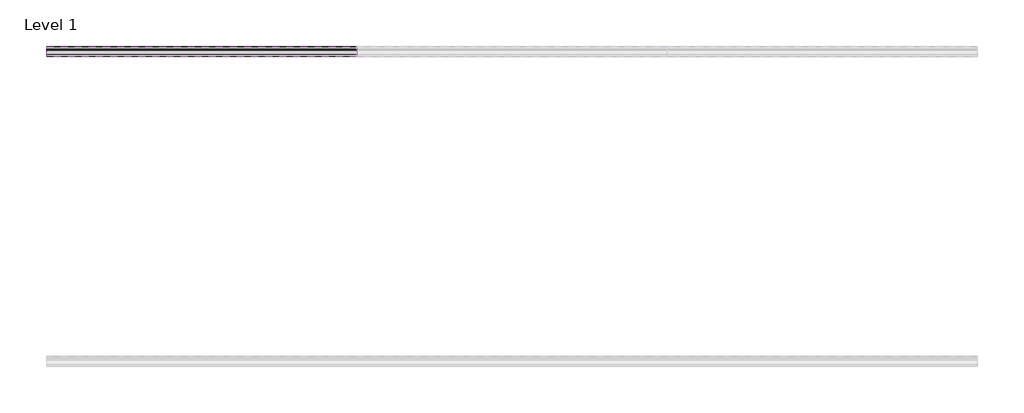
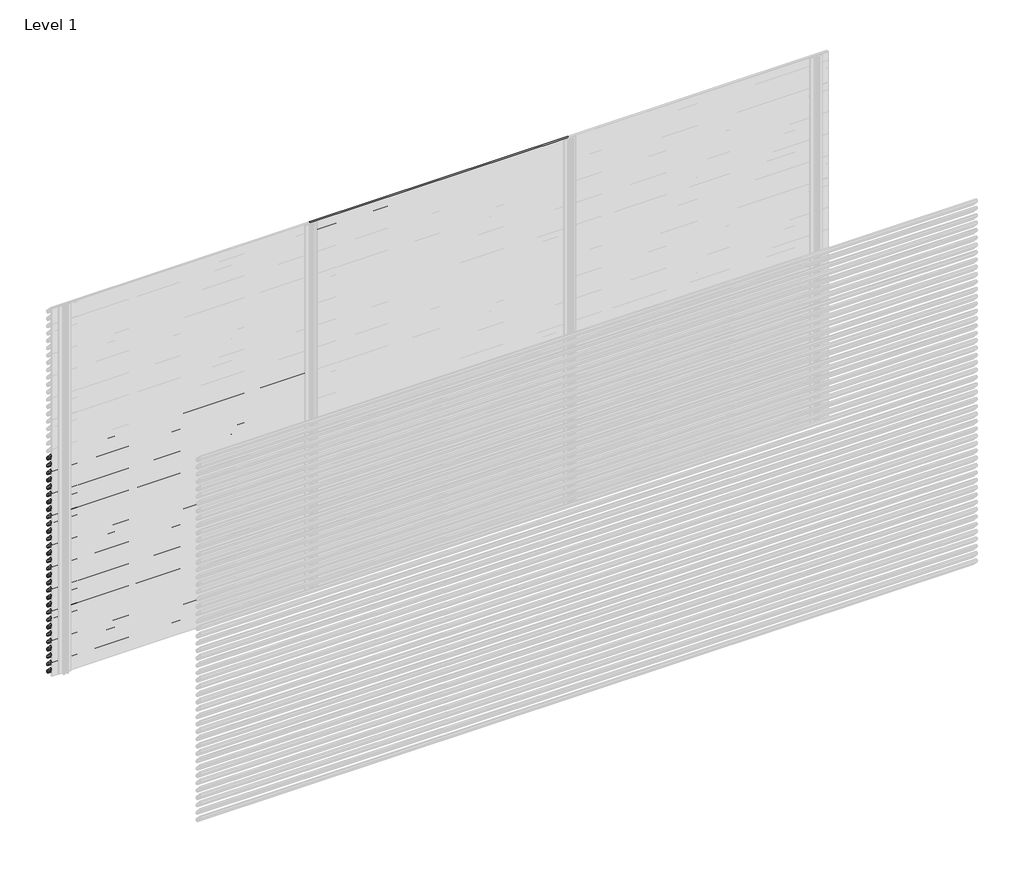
# One storey, part 34 of 153: 33 proxies.
"""IFC4 building model written with IfcOpenShell, lengths in millimetres."""

from ifc_helpers import new_model, si_unit, point, frame, frame_2d, origin, place, context, project, spatial, polyline, circle_curve, trimmed, segment, composite_curve, outline, extrude, element, save

model = new_model("IFC4")

# Units and contexts
model_context = context("Model", 3, world=origin())
ifc_project = project(units=[si_unit("LENGTHUNIT", "METRE", prefix="MILLI")], contexts=[model_context])

# Site, building, storey
site = spatial("IfcSite", under=ifc_project)
building = spatial("IfcBuilding", under=site)
storey = spatial("IfcBuildingStorey", under=building, Name="Level 1", Elevation=0.0)

# Proxies
placement = place(None, origin())
element("IfcBuildingElementProxy", 1, Name="Wall Sweeps", at=placement, inside=storey, context=model_context, shape_type="SweptSolid", body=[
    extrude(outline(composite_curve([segment(polyline([(6989.0270068, 1800.0), (7003.8471842, 1798.7034025), (7053.0270068, 1745.0102749), (7053.0270068, 1733.6108187)]), True, "CONTINUOUS"), segment(trimmed(circle_curve(frame_2d((7049.7613584, 1733.897153)), 3.2781774), [point((7053.0270068, 1733.6108187))], [point((7050.4369373, 1730.6893438))], False, "CARTESIAN"), True, "CONTINUOUS"), segment(polyline([(7050.4369373, 1730.6893438), (7038.1625655, 1731.6282758), (6989.0270068, 1785.2730773), (6989.0270068, 1800.0)]), True, "CONTINUOUS")], self_intersect=False), holes=[composite_curve([segment(polyline([(7003.1351705, 1797.2599659), (6990.5270068, 1798.3630372), (6990.5270068, 1785.856213), (7038.8681968, 1733.0786805), (7050.3042474, 1732.2038762)]), True, "CONTINUOUS"), segment(trimmed(circle_curve(frame_2d((7049.7613584, 1733.897153)), 1.7781774), [point((7050.3042474, 1732.2038762))], [point((7051.5270068, 1733.6864389))], True, "CARTESIAN"), True, "CONTINUOUS"), segment(polyline([(7051.5270068, 1733.6864389), (7051.5270068, 1744.4271392), (7003.1351705, 1797.2599659)]), True, "CONTINUOUS")], self_intersect=False)]), frame((44966.6208097, 0.0, 0.0), z_axis=(1.0, 0.0, 0.0), x_axis=(0.0, 1.0, 0.0)), (0.0, 0.0, 1.0), 2000.0000001),
])
element("IfcBuildingElementProxy", 2, Name="Wall Sweeps", at=placement, inside=storey, context=model_context, shape_type="SweptSolid", body=[
    extrude(outline(composite_curve([segment(polyline([(6989.0270068, 1740.0), (7003.8471842, 1738.7034025), (7053.0270068, 1685.0102749), (7053.0270068, 1673.6108187)]), True, "CONTINUOUS"), segment(trimmed(circle_curve(frame_2d((7049.7613584, 1673.897153)), 3.2781774), [point((7053.0270068, 1673.6108187))], [point((7050.4369373, 1670.6893438))], False, "CARTESIAN"), True, "CONTINUOUS"), segment(polyline([(7050.4369373, 1670.6893438), (7038.1625655, 1671.6282758), (6989.0270068, 1725.2730773), (6989.0270068, 1740.0)]), True, "CONTINUOUS")], self_intersect=False), holes=[composite_curve([segment(polyline([(7003.1351705, 1737.2599659), (6990.5270068, 1738.3630372), (6990.5270068, 1725.856213), (7038.8681968, 1673.0786805), (7050.3042474, 1672.2038762)]), True, "CONTINUOUS"), segment(trimmed(circle_curve(frame_2d((7049.7613584, 1673.897153)), 1.7781774), [point((7050.3042474, 1672.2038762))], [point((7051.5270068, 1673.6864389))], True, "CARTESIAN"), True, "CONTINUOUS"), segment(polyline([(7051.5270068, 1673.6864389), (7051.5270068, 1684.4271392), (7003.1351705, 1737.2599659)]), True, "CONTINUOUS")], self_intersect=False)]), frame((44966.6208097, 0.0, 0.0), z_axis=(1.0, 0.0, 0.0), x_axis=(0.0, 1.0, 0.0)), (0.0, 0.0, 1.0), 2000.0000001),
])
element("IfcBuildingElementProxy", 3, Name="Wall Sweeps", at=placement, inside=storey, context=model_context, shape_type="SweptSolid", body=[
    extrude(outline(composite_curve([segment(polyline([(6989.0270068, 1680.0), (7003.8471842, 1678.7034025), (7053.0270068, 1625.0102749), (7053.0270068, 1613.6108187)]), True, "CONTINUOUS"), segment(trimmed(circle_curve(frame_2d((7049.7613584, 1613.897153)), 3.2781774), [point((7053.0270068, 1613.6108187))], [point((7050.4369373, 1610.6893438))], False, "CARTESIAN"), True, "CONTINUOUS"), segment(polyline([(7050.4369373, 1610.6893438), (7038.1625655, 1611.6282758), (6989.0270068, 1665.2730773), (6989.0270068, 1680.0)]), True, "CONTINUOUS")], self_intersect=False), holes=[composite_curve([segment(polyline([(7003.1351705, 1677.2599659), (6990.5270068, 1678.3630372), (6990.5270068, 1665.856213), (7038.8681968, 1613.0786805), (7050.3042474, 1612.2038762)]), True, "CONTINUOUS"), segment(trimmed(circle_curve(frame_2d((7049.7613584, 1613.897153)), 1.7781774), [point((7050.3042474, 1612.2038762))], [point((7051.5270068, 1613.6864389))], True, "CARTESIAN"), True, "CONTINUOUS"), segment(polyline([(7051.5270068, 1613.6864389), (7051.5270068, 1624.4271392), (7003.1351705, 1677.2599659)]), True, "CONTINUOUS")], self_intersect=False)]), frame((44966.6208097, 0.0, 0.0), z_axis=(1.0, 0.0, 0.0), x_axis=(0.0, 1.0, 0.0)), (0.0, 0.0, 1.0), 2000.0000001),
])
element("IfcBuildingElementProxy", 4, Name="Wall Sweeps", at=placement, inside=storey, context=model_context, shape_type="SweptSolid", body=[
    extrude(outline(composite_curve([segment(polyline([(6989.0270068, 1620.0), (7003.8471842, 1618.7034025), (7053.0270068, 1565.0102749), (7053.0270068, 1553.6108187)]), True, "CONTINUOUS"), segment(trimmed(circle_curve(frame_2d((7049.7613584, 1553.897153)), 3.2781774), [point((7053.0270068, 1553.6108187))], [point((7050.4369373, 1550.6893438))], False, "CARTESIAN"), True, "CONTINUOUS"), segment(polyline([(7050.4369373, 1550.6893438), (7038.1625655, 1551.6282758), (6989.0270068, 1605.2730773), (6989.0270068, 1620.0)]), True, "CONTINUOUS")], self_intersect=False), holes=[composite_curve([segment(polyline([(7003.1351705, 1617.2599659), (6990.5270068, 1618.3630372), (6990.5270068, 1605.856213), (7038.8681968, 1553.0786805), (7050.3042474, 1552.2038762)]), True, "CONTINUOUS"), segment(trimmed(circle_curve(frame_2d((7049.7613584, 1553.897153)), 1.7781774), [point((7050.3042474, 1552.2038762))], [point((7051.5270068, 1553.6864389))], True, "CARTESIAN"), True, "CONTINUOUS"), segment(polyline([(7051.5270068, 1553.6864389), (7051.5270068, 1564.4271392), (7003.1351705, 1617.2599659)]), True, "CONTINUOUS")], self_intersect=False)]), frame((44966.6208097, 0.0, 0.0), z_axis=(1.0, 0.0, 0.0), x_axis=(0.0, 1.0, 0.0)), (0.0, 0.0, 1.0), 2000.0000001),
])
element("IfcBuildingElementProxy", 5, Name="Wall Sweeps", at=placement, inside=storey, context=model_context, shape_type="SweptSolid", body=[
    extrude(outline(composite_curve([segment(polyline([(6989.0270068, 1560.0), (7003.8471842, 1558.7034025), (7053.0270068, 1505.0102749), (7053.0270068, 1493.6108187)]), True, "CONTINUOUS"), segment(trimmed(circle_curve(frame_2d((7049.7613584, 1493.897153)), 3.2781774), [point((7053.0270068, 1493.6108187))], [point((7050.4369373, 1490.6893438))], False, "CARTESIAN"), True, "CONTINUOUS"), segment(polyline([(7050.4369373, 1490.6893438), (7038.1625655, 1491.6282758), (6989.0270068, 1545.2730773), (6989.0270068, 1560.0)]), True, "CONTINUOUS")], self_intersect=False), holes=[composite_curve([segment(polyline([(7003.1351705, 1557.2599659), (6990.5270068, 1558.3630372), (6990.5270068, 1545.856213), (7038.8681968, 1493.0786805), (7050.3042474, 1492.2038762)]), True, "CONTINUOUS"), segment(trimmed(circle_curve(frame_2d((7049.7613584, 1493.897153)), 1.7781774), [point((7050.3042474, 1492.2038762))], [point((7051.5270068, 1493.6864389))], True, "CARTESIAN"), True, "CONTINUOUS"), segment(polyline([(7051.5270068, 1493.6864389), (7051.5270068, 1504.4271392), (7003.1351705, 1557.2599659)]), True, "CONTINUOUS")], self_intersect=False)]), frame((44966.6208097, 0.0, 0.0), z_axis=(1.0, 0.0, 0.0), x_axis=(0.0, 1.0, 0.0)), (0.0, 0.0, 1.0), 2000.0000001),
])
element("IfcBuildingElementProxy", 6, Name="Wall Sweeps", at=placement, inside=storey, context=model_context, shape_type="SweptSolid", body=[
    extrude(outline(composite_curve([segment(polyline([(6989.0270068, 1500.0), (7003.8471842, 1498.7034025), (7053.0270068, 1445.0102749), (7053.0270068, 1433.6108187)]), True, "CONTINUOUS"), segment(trimmed(circle_curve(frame_2d((7049.7613584, 1433.897153)), 3.2781774), [point((7053.0270068, 1433.6108187))], [point((7050.4369373, 1430.6893438))], False, "CARTESIAN"), True, "CONTINUOUS"), segment(polyline([(7050.4369373, 1430.6893438), (7038.1625655, 1431.6282758), (6989.0270068, 1485.2730773), (6989.0270068, 1500.0)]), True, "CONTINUOUS")], self_intersect=False), holes=[composite_curve([segment(polyline([(7003.1351705, 1497.2599659), (6990.5270068, 1498.3630372), (6990.5270068, 1485.856213), (7038.8681968, 1433.0786805), (7050.3042474, 1432.2038762)]), True, "CONTINUOUS"), segment(trimmed(circle_curve(frame_2d((7049.7613584, 1433.897153)), 1.7781774), [point((7050.3042474, 1432.2038762))], [point((7051.5270068, 1433.6864389))], True, "CARTESIAN"), True, "CONTINUOUS"), segment(polyline([(7051.5270068, 1433.6864389), (7051.5270068, 1444.4271392), (7003.1351705, 1497.2599659)]), True, "CONTINUOUS")], self_intersect=False)]), frame((44966.6208097, 0.0, 0.0), z_axis=(1.0, 0.0, 0.0), x_axis=(0.0, 1.0, 0.0)), (0.0, 0.0, 1.0), 2000.0000001),
])
element("IfcBuildingElementProxy", 7, Name="Wall Sweeps", at=placement, inside=storey, context=model_context, shape_type="SweptSolid", body=[
    extrude(outline(composite_curve([segment(polyline([(6989.0270068, 1440.0), (7003.8471842, 1438.7034025), (7053.0270068, 1385.0102749), (7053.0270068, 1373.6108187)]), True, "CONTINUOUS"), segment(trimmed(circle_curve(frame_2d((7049.7613584, 1373.897153)), 3.2781774), [point((7053.0270068, 1373.6108187))], [point((7050.4369373, 1370.6893438))], False, "CARTESIAN"), True, "CONTINUOUS"), segment(polyline([(7050.4369373, 1370.6893438), (7038.1625655, 1371.6282758), (6989.0270068, 1425.2730773), (6989.0270068, 1440.0)]), True, "CONTINUOUS")], self_intersect=False), holes=[composite_curve([segment(polyline([(7003.1351705, 1437.2599659), (6990.5270068, 1438.3630372), (6990.5270068, 1425.856213), (7038.8681968, 1373.0786805), (7050.3042474, 1372.2038762)]), True, "CONTINUOUS"), segment(trimmed(circle_curve(frame_2d((7049.7613584, 1373.897153)), 1.7781774), [point((7050.3042474, 1372.2038762))], [point((7051.5270068, 1373.6864389))], True, "CARTESIAN"), True, "CONTINUOUS"), segment(polyline([(7051.5270068, 1373.6864389), (7051.5270068, 1384.4271392), (7003.1351705, 1437.2599659)]), True, "CONTINUOUS")], self_intersect=False)]), frame((44966.6208097, 0.0, 0.0), z_axis=(1.0, 0.0, 0.0), x_axis=(0.0, 1.0, 0.0)), (0.0, 0.0, 1.0), 2000.0000001),
])
element("IfcBuildingElementProxy", 8, Name="Wall Sweeps", at=placement, inside=storey, context=model_context, shape_type="SweptSolid", body=[
    extrude(outline(composite_curve([segment(polyline([(6989.0270068, 1380.0), (7003.8471842, 1378.7034025), (7053.0270068, 1325.0102749), (7053.0270068, 1313.6108187)]), True, "CONTINUOUS"), segment(trimmed(circle_curve(frame_2d((7049.7613584, 1313.897153)), 3.2781774), [point((7053.0270068, 1313.6108187))], [point((7050.4369373, 1310.6893438))], False, "CARTESIAN"), True, "CONTINUOUS"), segment(polyline([(7050.4369373, 1310.6893438), (7038.1625655, 1311.6282758), (6989.0270068, 1365.2730773), (6989.0270068, 1380.0)]), True, "CONTINUOUS")], self_intersect=False), holes=[composite_curve([segment(polyline([(7003.1351705, 1377.2599659), (6990.5270068, 1378.3630372), (6990.5270068, 1365.856213), (7038.8681968, 1313.0786805), (7050.3042474, 1312.2038762)]), True, "CONTINUOUS"), segment(trimmed(circle_curve(frame_2d((7049.7613584, 1313.897153)), 1.7781774), [point((7050.3042474, 1312.2038762))], [point((7051.5270068, 1313.6864389))], True, "CARTESIAN"), True, "CONTINUOUS"), segment(polyline([(7051.5270068, 1313.6864389), (7051.5270068, 1324.4271392), (7003.1351705, 1377.2599659)]), True, "CONTINUOUS")], self_intersect=False)]), frame((44966.6208097, 0.0, 0.0), z_axis=(1.0, 0.0, 0.0), x_axis=(0.0, 1.0, 0.0)), (0.0, 0.0, 1.0), 2000.0000001),
])
element("IfcBuildingElementProxy", 9, Name="Wall Sweeps", at=placement, inside=storey, context=model_context, shape_type="SweptSolid", body=[
    extrude(outline(composite_curve([segment(polyline([(6989.0270068, 1320.0), (7003.8471842, 1318.7034025), (7053.0270068, 1265.0102749), (7053.0270068, 1253.6108187)]), True, "CONTINUOUS"), segment(trimmed(circle_curve(frame_2d((7049.7613584, 1253.897153)), 3.2781774), [point((7053.0270068, 1253.6108187))], [point((7050.4369373, 1250.6893438))], False, "CARTESIAN"), True, "CONTINUOUS"), segment(polyline([(7050.4369373, 1250.6893438), (7038.1625655, 1251.6282758), (6989.0270068, 1305.2730773), (6989.0270068, 1320.0)]), True, "CONTINUOUS")], self_intersect=False), holes=[composite_curve([segment(polyline([(7003.1351705, 1317.2599659), (6990.5270068, 1318.3630372), (6990.5270068, 1305.856213), (7038.8681968, 1253.0786805), (7050.3042474, 1252.2038762)]), True, "CONTINUOUS"), segment(trimmed(circle_curve(frame_2d((7049.7613584, 1253.897153)), 1.7781774), [point((7050.3042474, 1252.2038762))], [point((7051.5270068, 1253.6864389))], True, "CARTESIAN"), True, "CONTINUOUS"), segment(polyline([(7051.5270068, 1253.6864389), (7051.5270068, 1264.4271392), (7003.1351705, 1317.2599659)]), True, "CONTINUOUS")], self_intersect=False)]), frame((44966.6208097, 0.0, 0.0), z_axis=(1.0, 0.0, 0.0), x_axis=(0.0, 1.0, 0.0)), (0.0, 0.0, 1.0), 2000.0000001),
])
element("IfcBuildingElementProxy", 10, Name="Wall Sweeps", at=placement, inside=storey, context=model_context, shape_type="SweptSolid", body=[
    extrude(outline(composite_curve([segment(polyline([(6989.0270068, 1260.0), (7003.8471842, 1258.7034025), (7053.0270068, 1205.0102749), (7053.0270068, 1193.6108187)]), True, "CONTINUOUS"), segment(trimmed(circle_curve(frame_2d((7049.7613584, 1193.897153)), 3.2781774), [point((7053.0270068, 1193.6108187))], [point((7050.4369373, 1190.6893438))], False, "CARTESIAN"), True, "CONTINUOUS"), segment(polyline([(7050.4369373, 1190.6893438), (7038.1625655, 1191.6282758), (6989.0270068, 1245.2730773), (6989.0270068, 1260.0)]), True, "CONTINUOUS")], self_intersect=False), holes=[composite_curve([segment(polyline([(7003.1351705, 1257.2599659), (6990.5270068, 1258.3630372), (6990.5270068, 1245.856213), (7038.8681968, 1193.0786805), (7050.3042474, 1192.2038762)]), True, "CONTINUOUS"), segment(trimmed(circle_curve(frame_2d((7049.7613584, 1193.897153)), 1.7781774), [point((7050.3042474, 1192.2038762))], [point((7051.5270068, 1193.6864389))], True, "CARTESIAN"), True, "CONTINUOUS"), segment(polyline([(7051.5270068, 1193.6864389), (7051.5270068, 1204.4271392), (7003.1351705, 1257.2599659)]), True, "CONTINUOUS")], self_intersect=False)]), frame((44966.6208097, 0.0, 0.0), z_axis=(1.0, 0.0, 0.0), x_axis=(0.0, 1.0, 0.0)), (0.0, 0.0, 1.0), 2000.0000001),
])
element("IfcBuildingElementProxy", 11, Name="Wall Sweeps", at=placement, inside=storey, context=model_context, shape_type="SweptSolid", body=[
    extrude(outline(composite_curve([segment(polyline([(6989.0270068, 1200.0), (7003.8471842, 1198.7034025), (7053.0270068, 1145.0102749), (7053.0270068, 1133.6108187)]), True, "CONTINUOUS"), segment(trimmed(circle_curve(frame_2d((7049.7613584, 1133.897153)), 3.2781774), [point((7053.0270068, 1133.6108187))], [point((7050.4369373, 1130.6893438))], False, "CARTESIAN"), True, "CONTINUOUS"), segment(polyline([(7050.4369373, 1130.6893438), (7038.1625655, 1131.6282758), (6989.0270068, 1185.2730773), (6989.0270068, 1200.0)]), True, "CONTINUOUS")], self_intersect=False), holes=[composite_curve([segment(polyline([(7003.1351705, 1197.2599659), (6990.5270068, 1198.3630372), (6990.5270068, 1185.856213), (7038.8681968, 1133.0786805), (7050.3042474, 1132.2038762)]), True, "CONTINUOUS"), segment(trimmed(circle_curve(frame_2d((7049.7613584, 1133.897153)), 1.7781774), [point((7050.3042474, 1132.2038762))], [point((7051.5270068, 1133.6864389))], True, "CARTESIAN"), True, "CONTINUOUS"), segment(polyline([(7051.5270068, 1133.6864389), (7051.5270068, 1144.4271392), (7003.1351705, 1197.2599659)]), True, "CONTINUOUS")], self_intersect=False)]), frame((44966.6208097, 0.0, 0.0), z_axis=(1.0, 0.0, 0.0), x_axis=(0.0, 1.0, 0.0)), (0.0, 0.0, 1.0), 2000.0000001),
])
element("IfcBuildingElementProxy", 12, Name="Wall Sweeps", at=placement, inside=storey, context=model_context, shape_type="SweptSolid", body=[
    extrude(outline(composite_curve([segment(polyline([(6989.0270068, 1140.0), (7003.8471842, 1138.7034025), (7053.0270068, 1085.0102749), (7053.0270068, 1073.6108187)]), True, "CONTINUOUS"), segment(trimmed(circle_curve(frame_2d((7049.7613584, 1073.897153)), 3.2781774), [point((7053.0270068, 1073.6108187))], [point((7050.4369373, 1070.6893438))], False, "CARTESIAN"), True, "CONTINUOUS"), segment(polyline([(7050.4369373, 1070.6893438), (7038.1625655, 1071.6282758), (6989.0270068, 1125.2730773), (6989.0270068, 1140.0)]), True, "CONTINUOUS")], self_intersect=False), holes=[composite_curve([segment(polyline([(7003.1351705, 1137.2599659), (6990.5270068, 1138.3630372), (6990.5270068, 1125.856213), (7038.8681968, 1073.0786805), (7050.3042474, 1072.2038762)]), True, "CONTINUOUS"), segment(trimmed(circle_curve(frame_2d((7049.7613584, 1073.897153)), 1.7781774), [point((7050.3042474, 1072.2038762))], [point((7051.5270068, 1073.6864389))], True, "CARTESIAN"), True, "CONTINUOUS"), segment(polyline([(7051.5270068, 1073.6864389), (7051.5270068, 1084.4271392), (7003.1351705, 1137.2599659)]), True, "CONTINUOUS")], self_intersect=False)]), frame((44966.6208097, 0.0, 0.0), z_axis=(1.0, 0.0, 0.0), x_axis=(0.0, 1.0, 0.0)), (0.0, 0.0, 1.0), 2000.0000001),
])
element("IfcBuildingElementProxy", 13, Name="Wall Sweeps", at=placement, inside=storey, context=model_context, shape_type="SweptSolid", body=[
    extrude(outline(composite_curve([segment(polyline([(6989.0270068, 1080.0), (7003.8471842, 1078.7034025), (7053.0270068, 1025.0102749), (7053.0270068, 1013.6108187)]), True, "CONTINUOUS"), segment(trimmed(circle_curve(frame_2d((7049.7613584, 1013.897153)), 3.2781774), [point((7053.0270068, 1013.6108187))], [point((7050.4369373, 1010.6893438))], False, "CARTESIAN"), True, "CONTINUOUS"), segment(polyline([(7050.4369373, 1010.6893438), (7038.1625655, 1011.6282758), (6989.0270068, 1065.2730773), (6989.0270068, 1080.0)]), True, "CONTINUOUS")], self_intersect=False), holes=[composite_curve([segment(polyline([(7003.1351705, 1077.2599659), (6990.5270068, 1078.3630372), (6990.5270068, 1065.856213), (7038.8681968, 1013.0786805), (7050.3042474, 1012.2038762)]), True, "CONTINUOUS"), segment(trimmed(circle_curve(frame_2d((7049.7613584, 1013.897153)), 1.7781774), [point((7050.3042474, 1012.2038762))], [point((7051.5270068, 1013.6864389))], True, "CARTESIAN"), True, "CONTINUOUS"), segment(polyline([(7051.5270068, 1013.6864389), (7051.5270068, 1024.4271392), (7003.1351705, 1077.2599659)]), True, "CONTINUOUS")], self_intersect=False)]), frame((44966.6208097, 0.0, 0.0), z_axis=(1.0, 0.0, 0.0), x_axis=(0.0, 1.0, 0.0)), (0.0, 0.0, 1.0), 2000.0000001),
])
element("IfcBuildingElementProxy", 14, Name="Wall Sweeps", at=placement, inside=storey, context=model_context, shape_type="SweptSolid", body=[
    extrude(outline(composite_curve([segment(polyline([(6989.0270068, 1020.0), (7003.8471842, 1018.7034025), (7053.0270068, 965.0102749), (7053.0270068, 953.6108187)]), True, "CONTINUOUS"), segment(trimmed(circle_curve(frame_2d((7049.7613584, 953.897153)), 3.2781774), [point((7053.0270068, 953.6108187))], [point((7050.4369373, 950.6893438))], False, "CARTESIAN"), True, "CONTINUOUS"), segment(polyline([(7050.4369373, 950.6893438), (7038.1625655, 951.6282758), (6989.0270068, 1005.2730773), (6989.0270068, 1020.0)]), True, "CONTINUOUS")], self_intersect=False), holes=[composite_curve([segment(polyline([(7003.1351705, 1017.2599659), (6990.5270068, 1018.3630372), (6990.5270068, 1005.856213), (7038.8681968, 953.0786805), (7050.3042474, 952.2038762)]), True, "CONTINUOUS"), segment(trimmed(circle_curve(frame_2d((7049.7613584, 953.897153)), 1.7781774), [point((7050.3042474, 952.2038762))], [point((7051.5270068, 953.6864389))], True, "CARTESIAN"), True, "CONTINUOUS"), segment(polyline([(7051.5270068, 953.6864389), (7051.5270068, 964.4271392), (7003.1351705, 1017.2599659)]), True, "CONTINUOUS")], self_intersect=False)]), frame((44966.6208097, 0.0, 0.0), z_axis=(1.0, 0.0, 0.0), x_axis=(0.0, 1.0, 0.0)), (0.0, 0.0, 1.0), 2000.0000001),
])
element("IfcBuildingElementProxy", 15, Name="Wall Sweeps", at=placement, inside=storey, context=model_context, shape_type="SweptSolid", body=[
    extrude(outline(composite_curve([segment(polyline([(6989.0270068, 960.0), (7003.8471842, 958.7034025), (7053.0270068, 905.0102749), (7053.0270068, 893.6108187)]), True, "CONTINUOUS"), segment(trimmed(circle_curve(frame_2d((7049.7613584, 893.897153)), 3.2781774), [point((7053.0270068, 893.6108187))], [point((7050.4369373, 890.6893438))], False, "CARTESIAN"), True, "CONTINUOUS"), segment(polyline([(7050.4369373, 890.6893438), (7038.1625655, 891.6282758), (6989.0270068, 945.2730773), (6989.0270068, 960.0)]), True, "CONTINUOUS")], self_intersect=False), holes=[composite_curve([segment(polyline([(7003.1351705, 957.2599659), (6990.5270068, 958.3630372), (6990.5270068, 945.856213), (7038.8681968, 893.0786805), (7050.3042474, 892.2038762)]), True, "CONTINUOUS"), segment(trimmed(circle_curve(frame_2d((7049.7613584, 893.897153)), 1.7781774), [point((7050.3042474, 892.2038762))], [point((7051.5270068, 893.6864389))], True, "CARTESIAN"), True, "CONTINUOUS"), segment(polyline([(7051.5270068, 893.6864389), (7051.5270068, 904.4271392), (7003.1351705, 957.2599659)]), True, "CONTINUOUS")], self_intersect=False)]), frame((44966.6208097, 0.0, 0.0), z_axis=(1.0, 0.0, 0.0), x_axis=(0.0, 1.0, 0.0)), (0.0, 0.0, 1.0), 2000.0000001),
])
element("IfcBuildingElementProxy", 16, Name="Wall Sweeps", at=placement, inside=storey, context=model_context, shape_type="SweptSolid", body=[
    extrude(outline(composite_curve([segment(polyline([(6989.0270068, 900.0), (7003.8471842, 898.7034025), (7053.0270068, 845.0102749), (7053.0270068, 833.6108187)]), True, "CONTINUOUS"), segment(trimmed(circle_curve(frame_2d((7049.7613584, 833.897153)), 3.2781774), [point((7053.0270068, 833.6108187))], [point((7050.4369373, 830.6893438))], False, "CARTESIAN"), True, "CONTINUOUS"), segment(polyline([(7050.4369373, 830.6893438), (7038.1625655, 831.6282758), (6989.0270068, 885.2730773), (6989.0270068, 900.0)]), True, "CONTINUOUS")], self_intersect=False), holes=[composite_curve([segment(polyline([(7003.1351705, 897.2599659), (6990.5270068, 898.3630372), (6990.5270068, 885.856213), (7038.8681968, 833.0786805), (7050.3042474, 832.2038762)]), True, "CONTINUOUS"), segment(trimmed(circle_curve(frame_2d((7049.7613584, 833.897153)), 1.7781774), [point((7050.3042474, 832.2038762))], [point((7051.5270068, 833.6864389))], True, "CARTESIAN"), True, "CONTINUOUS"), segment(polyline([(7051.5270068, 833.6864389), (7051.5270068, 844.4271392), (7003.1351705, 897.2599659)]), True, "CONTINUOUS")], self_intersect=False)]), frame((44966.6208097, 0.0, 0.0), z_axis=(1.0, 0.0, 0.0), x_axis=(0.0, 1.0, 0.0)), (0.0, 0.0, 1.0), 2000.0000001),
])
element("IfcBuildingElementProxy", 17, Name="Wall Sweeps", at=placement, inside=storey, context=model_context, shape_type="SweptSolid", body=[
    extrude(outline(composite_curve([segment(polyline([(6989.0270068, 840.0), (7003.8471842, 838.7034025), (7053.0270068, 785.0102749), (7053.0270068, 773.6108187)]), True, "CONTINUOUS"), segment(trimmed(circle_curve(frame_2d((7049.7613584, 773.897153)), 3.2781774), [point((7053.0270068, 773.6108187))], [point((7050.4369373, 770.6893438))], False, "CARTESIAN"), True, "CONTINUOUS"), segment(polyline([(7050.4369373, 770.6893438), (7038.1625655, 771.6282758), (6989.0270068, 825.2730773), (6989.0270068, 840.0)]), True, "CONTINUOUS")], self_intersect=False), holes=[composite_curve([segment(polyline([(7003.1351705, 837.2599659), (6990.5270068, 838.3630372), (6990.5270068, 825.856213), (7038.8681968, 773.0786805), (7050.3042474, 772.2038762)]), True, "CONTINUOUS"), segment(trimmed(circle_curve(frame_2d((7049.7613584, 773.897153)), 1.7781774), [point((7050.3042474, 772.2038762))], [point((7051.5270068, 773.6864389))], True, "CARTESIAN"), True, "CONTINUOUS"), segment(polyline([(7051.5270068, 773.6864389), (7051.5270068, 784.4271392), (7003.1351705, 837.2599659)]), True, "CONTINUOUS")], self_intersect=False)]), frame((44966.6208097, 0.0, 0.0), z_axis=(1.0, 0.0, 0.0), x_axis=(0.0, 1.0, 0.0)), (0.0, 0.0, 1.0), 2000.0000001),
])
element("IfcBuildingElementProxy", 18, Name="Wall Sweeps", at=placement, inside=storey, context=model_context, shape_type="SweptSolid", body=[
    extrude(outline(composite_curve([segment(polyline([(6989.0270068, 780.0), (7003.8471842, 778.7034025), (7053.0270068, 725.0102749), (7053.0270068, 713.6108187)]), True, "CONTINUOUS"), segment(trimmed(circle_curve(frame_2d((7049.7613584, 713.897153)), 3.2781774), [point((7053.0270068, 713.6108187))], [point((7050.4369373, 710.6893438))], False, "CARTESIAN"), True, "CONTINUOUS"), segment(polyline([(7050.4369373, 710.6893438), (7038.1625655, 711.6282758), (6989.0270068, 765.2730773), (6989.0270068, 780.0)]), True, "CONTINUOUS")], self_intersect=False), holes=[composite_curve([segment(polyline([(7003.1351705, 777.2599659), (6990.5270068, 778.3630372), (6990.5270068, 765.856213), (7038.8681968, 713.0786805), (7050.3042474, 712.2038762)]), True, "CONTINUOUS"), segment(trimmed(circle_curve(frame_2d((7049.7613584, 713.897153)), 1.7781774), [point((7050.3042474, 712.2038762))], [point((7051.5270068, 713.6864389))], True, "CARTESIAN"), True, "CONTINUOUS"), segment(polyline([(7051.5270068, 713.6864389), (7051.5270068, 724.4271392), (7003.1351705, 777.2599659)]), True, "CONTINUOUS")], self_intersect=False)]), frame((44966.6208097, 0.0, 0.0), z_axis=(1.0, 0.0, 0.0), x_axis=(0.0, 1.0, 0.0)), (0.0, 0.0, 1.0), 2000.0000001),
])
element("IfcBuildingElementProxy", 19, Name="Wall Sweeps", at=placement, inside=storey, context=model_context, shape_type="SweptSolid", body=[
    extrude(outline(composite_curve([segment(polyline([(6989.0270068, 720.0), (7003.8471842, 718.7034025), (7053.0270068, 665.0102749), (7053.0270068, 653.6108187)]), True, "CONTINUOUS"), segment(trimmed(circle_curve(frame_2d((7049.7613584, 653.897153)), 3.2781774), [point((7053.0270068, 653.6108187))], [point((7050.4369373, 650.6893438))], False, "CARTESIAN"), True, "CONTINUOUS"), segment(polyline([(7050.4369373, 650.6893438), (7038.1625655, 651.6282758), (6989.0270068, 705.2730773), (6989.0270068, 720.0)]), True, "CONTINUOUS")], self_intersect=False), holes=[composite_curve([segment(polyline([(7003.1351705, 717.2599659), (6990.5270068, 718.3630372), (6990.5270068, 705.856213), (7038.8681968, 653.0786805), (7050.3042474, 652.2038762)]), True, "CONTINUOUS"), segment(trimmed(circle_curve(frame_2d((7049.7613584, 653.897153)), 1.7781774), [point((7050.3042474, 652.2038762))], [point((7051.5270068, 653.6864389))], True, "CARTESIAN"), True, "CONTINUOUS"), segment(polyline([(7051.5270068, 653.6864389), (7051.5270068, 664.4271392), (7003.1351705, 717.2599659)]), True, "CONTINUOUS")], self_intersect=False)]), frame((44966.6208097, 0.0, 0.0), z_axis=(1.0, 0.0, 0.0), x_axis=(0.0, 1.0, 0.0)), (0.0, 0.0, 1.0), 2000.0000001),
])
element("IfcBuildingElementProxy", 20, Name="Wall Sweeps", at=placement, inside=storey, context=model_context, shape_type="SweptSolid", body=[
    extrude(outline(composite_curve([segment(polyline([(6989.0270068, 660.0), (7003.8471842, 658.7034025), (7053.0270068, 605.0102749), (7053.0270068, 593.6108187)]), True, "CONTINUOUS"), segment(trimmed(circle_curve(frame_2d((7049.7613584, 593.897153)), 3.2781774), [point((7053.0270068, 593.6108187))], [point((7050.4369373, 590.6893438))], False, "CARTESIAN"), True, "CONTINUOUS"), segment(polyline([(7050.4369373, 590.6893438), (7038.1625655, 591.6282758), (6989.0270068, 645.2730773), (6989.0270068, 660.0)]), True, "CONTINUOUS")], self_intersect=False), holes=[composite_curve([segment(polyline([(7003.1351705, 657.2599659), (6990.5270068, 658.3630372), (6990.5270068, 645.856213), (7038.8681968, 593.0786805), (7050.3042474, 592.2038762)]), True, "CONTINUOUS"), segment(trimmed(circle_curve(frame_2d((7049.7613584, 593.897153)), 1.7781774), [point((7050.3042474, 592.2038762))], [point((7051.5270068, 593.6864389))], True, "CARTESIAN"), True, "CONTINUOUS"), segment(polyline([(7051.5270068, 593.6864389), (7051.5270068, 604.4271392), (7003.1351705, 657.2599659)]), True, "CONTINUOUS")], self_intersect=False)]), frame((44966.6208097, 0.0, 0.0), z_axis=(1.0, 0.0, 0.0), x_axis=(0.0, 1.0, 0.0)), (0.0, 0.0, 1.0), 2000.0000001),
])
element("IfcBuildingElementProxy", 21, Name="Wall Sweeps", at=placement, inside=storey, context=model_context, shape_type="SweptSolid", body=[
    extrude(outline(composite_curve([segment(polyline([(6989.0270068, 600.0), (7003.8471842, 598.7034025), (7053.0270068, 545.0102749), (7053.0270068, 533.6108187)]), True, "CONTINUOUS"), segment(trimmed(circle_curve(frame_2d((7049.7613584, 533.897153)), 3.2781774), [point((7053.0270068, 533.6108187))], [point((7050.4369373, 530.6893438))], False, "CARTESIAN"), True, "CONTINUOUS"), segment(polyline([(7050.4369373, 530.6893438), (7038.1625655, 531.6282758), (6989.0270068, 585.2730773), (6989.0270068, 600.0)]), True, "CONTINUOUS")], self_intersect=False), holes=[composite_curve([segment(polyline([(7003.1351705, 597.2599659), (6990.5270068, 598.3630372), (6990.5270068, 585.856213), (7038.8681968, 533.0786805), (7050.3042474, 532.2038762)]), True, "CONTINUOUS"), segment(trimmed(circle_curve(frame_2d((7049.7613584, 533.897153)), 1.7781774), [point((7050.3042474, 532.2038762))], [point((7051.5270068, 533.6864389))], True, "CARTESIAN"), True, "CONTINUOUS"), segment(polyline([(7051.5270068, 533.6864389), (7051.5270068, 544.4271392), (7003.1351705, 597.2599659)]), True, "CONTINUOUS")], self_intersect=False)]), frame((44966.6208097, 0.0, 0.0), z_axis=(1.0, 0.0, 0.0), x_axis=(0.0, 1.0, 0.0)), (0.0, 0.0, 1.0), 2000.0000001),
])
element("IfcBuildingElementProxy", 22, Name="Wall Sweeps", at=placement, inside=storey, context=model_context, shape_type="SweptSolid", body=[
    extrude(outline(composite_curve([segment(polyline([(6989.0270068, 540.0), (7003.8471842, 538.7034025), (7053.0270068, 485.0102749), (7053.0270068, 473.6108187)]), True, "CONTINUOUS"), segment(trimmed(circle_curve(frame_2d((7049.7613584, 473.897153)), 3.2781774), [point((7053.0270068, 473.6108187))], [point((7050.4369373, 470.6893438))], False, "CARTESIAN"), True, "CONTINUOUS"), segment(polyline([(7050.4369373, 470.6893438), (7038.1625655, 471.6282758), (6989.0270068, 525.2730773), (6989.0270068, 540.0)]), True, "CONTINUOUS")], self_intersect=False), holes=[composite_curve([segment(polyline([(7003.1351705, 537.2599659), (6990.5270068, 538.3630372), (6990.5270068, 525.856213), (7038.8681968, 473.0786805), (7050.3042474, 472.2038762)]), True, "CONTINUOUS"), segment(trimmed(circle_curve(frame_2d((7049.7613584, 473.897153)), 1.7781774), [point((7050.3042474, 472.2038762))], [point((7051.5270068, 473.6864389))], True, "CARTESIAN"), True, "CONTINUOUS"), segment(polyline([(7051.5270068, 473.6864389), (7051.5270068, 484.4271392), (7003.1351705, 537.2599659)]), True, "CONTINUOUS")], self_intersect=False)]), frame((44966.6208097, 0.0, 0.0), z_axis=(1.0, 0.0, 0.0), x_axis=(0.0, 1.0, 0.0)), (0.0, 0.0, 1.0), 2000.0000001),
])
element("IfcBuildingElementProxy", 23, Name="Wall Sweeps", at=placement, inside=storey, context=model_context, shape_type="SweptSolid", body=[
    extrude(outline(composite_curve([segment(polyline([(6989.0270068, 480.0), (7003.8471842, 478.7034025), (7053.0270068, 425.0102749), (7053.0270068, 413.6108187)]), True, "CONTINUOUS"), segment(trimmed(circle_curve(frame_2d((7049.7613584, 413.897153)), 3.2781774), [point((7053.0270068, 413.6108187))], [point((7050.4369373, 410.6893438))], False, "CARTESIAN"), True, "CONTINUOUS"), segment(polyline([(7050.4369373, 410.6893438), (7038.1625655, 411.6282758), (6989.0270068, 465.2730773), (6989.0270068, 480.0)]), True, "CONTINUOUS")], self_intersect=False), holes=[composite_curve([segment(polyline([(7003.1351705, 477.2599659), (6990.5270068, 478.3630372), (6990.5270068, 465.856213), (7038.8681968, 413.0786805), (7050.3042474, 412.2038762)]), True, "CONTINUOUS"), segment(trimmed(circle_curve(frame_2d((7049.7613584, 413.897153)), 1.7781774), [point((7050.3042474, 412.2038762))], [point((7051.5270068, 413.6864389))], True, "CARTESIAN"), True, "CONTINUOUS"), segment(polyline([(7051.5270068, 413.6864389), (7051.5270068, 424.4271392), (7003.1351705, 477.2599659)]), True, "CONTINUOUS")], self_intersect=False)]), frame((44966.6208097, 0.0, 0.0), z_axis=(1.0, 0.0, 0.0), x_axis=(0.0, 1.0, 0.0)), (0.0, 0.0, 1.0), 2000.0000001),
])
element("IfcBuildingElementProxy", 24, Name="Wall Sweeps", at=placement, inside=storey, context=model_context, shape_type="SweptSolid", body=[
    extrude(outline(composite_curve([segment(polyline([(6989.0270068, 420.0), (7003.8471842, 418.7034025), (7053.0270068, 365.0102749), (7053.0270068, 353.6108187)]), True, "CONTINUOUS"), segment(trimmed(circle_curve(frame_2d((7049.7613584, 353.897153)), 3.2781774), [point((7053.0270068, 353.6108187))], [point((7050.4369373, 350.6893438))], False, "CARTESIAN"), True, "CONTINUOUS"), segment(polyline([(7050.4369373, 350.6893438), (7038.1625655, 351.6282758), (6989.0270068, 405.2730773), (6989.0270068, 420.0)]), True, "CONTINUOUS")], self_intersect=False), holes=[composite_curve([segment(polyline([(7003.1351705, 417.2599659), (6990.5270068, 418.3630372), (6990.5270068, 405.856213), (7038.8681968, 353.0786805), (7050.3042474, 352.2038762)]), True, "CONTINUOUS"), segment(trimmed(circle_curve(frame_2d((7049.7613584, 353.897153)), 1.7781774), [point((7050.3042474, 352.2038762))], [point((7051.5270068, 353.6864389))], True, "CARTESIAN"), True, "CONTINUOUS"), segment(polyline([(7051.5270068, 353.6864389), (7051.5270068, 364.4271392), (7003.1351705, 417.2599659)]), True, "CONTINUOUS")], self_intersect=False)]), frame((44966.6208097, 0.0, 0.0), z_axis=(1.0, 0.0, 0.0), x_axis=(0.0, 1.0, 0.0)), (0.0, 0.0, 1.0), 2000.0000001),
])
element("IfcBuildingElementProxy", 25, Name="Wall Sweeps", at=placement, inside=storey, context=model_context, shape_type="SweptSolid", body=[
    extrude(outline(composite_curve([segment(polyline([(6989.0270068, 360.0), (7003.8471842, 358.7034025), (7053.0270068, 305.0102749), (7053.0270068, 293.6108187)]), True, "CONTINUOUS"), segment(trimmed(circle_curve(frame_2d((7049.7613584, 293.897153)), 3.2781774), [point((7053.0270068, 293.6108187))], [point((7050.4369373, 290.6893438))], False, "CARTESIAN"), True, "CONTINUOUS"), segment(polyline([(7050.4369373, 290.6893438), (7038.1625655, 291.6282758), (6989.0270068, 345.2730773), (6989.0270068, 360.0)]), True, "CONTINUOUS")], self_intersect=False), holes=[composite_curve([segment(polyline([(7003.1351705, 357.2599659), (6990.5270068, 358.3630372), (6990.5270068, 345.856213), (7038.8681968, 293.0786805), (7050.3042474, 292.2038762)]), True, "CONTINUOUS"), segment(trimmed(circle_curve(frame_2d((7049.7613584, 293.897153)), 1.7781774), [point((7050.3042474, 292.2038762))], [point((7051.5270068, 293.6864389))], True, "CARTESIAN"), True, "CONTINUOUS"), segment(polyline([(7051.5270068, 293.6864389), (7051.5270068, 304.4271392), (7003.1351705, 357.2599659)]), True, "CONTINUOUS")], self_intersect=False)]), frame((44966.6208097, 0.0, 0.0), z_axis=(1.0, 0.0, 0.0), x_axis=(0.0, 1.0, 0.0)), (0.0, 0.0, 1.0), 2000.0000001),
])
element("IfcBuildingElementProxy", 26, Name="Wall Sweeps", at=placement, inside=storey, context=model_context, shape_type="SweptSolid", body=[
    extrude(outline(composite_curve([segment(polyline([(6989.0270068, 300.0), (7003.8471842, 298.7034025), (7053.0270068, 245.0102749), (7053.0270068, 233.6108187)]), True, "CONTINUOUS"), segment(trimmed(circle_curve(frame_2d((7049.7613584, 233.897153)), 3.2781774), [point((7053.0270068, 233.6108187))], [point((7050.4369373, 230.6893438))], False, "CARTESIAN"), True, "CONTINUOUS"), segment(polyline([(7050.4369373, 230.6893438), (7038.1625655, 231.6282758), (6989.0270068, 285.2730773), (6989.0270068, 300.0)]), True, "CONTINUOUS")], self_intersect=False), holes=[composite_curve([segment(polyline([(7003.1351705, 297.2599659), (6990.5270068, 298.3630372), (6990.5270068, 285.856213), (7038.8681968, 233.0786805), (7050.3042474, 232.2038762)]), True, "CONTINUOUS"), segment(trimmed(circle_curve(frame_2d((7049.7613584, 233.897153)), 1.7781774), [point((7050.3042474, 232.2038762))], [point((7051.5270068, 233.6864389))], True, "CARTESIAN"), True, "CONTINUOUS"), segment(polyline([(7051.5270068, 233.6864389), (7051.5270068, 244.4271392), (7003.1351705, 297.2599659)]), True, "CONTINUOUS")], self_intersect=False)]), frame((44966.6208097, 0.0, 0.0), z_axis=(1.0, 0.0, 0.0), x_axis=(0.0, 1.0, 0.0)), (0.0, 0.0, 1.0), 2000.0000001),
])
element("IfcBuildingElementProxy", 27, Name="Wall Sweeps", at=placement, inside=storey, context=model_context, shape_type="SweptSolid", body=[
    extrude(outline(composite_curve([segment(polyline([(6989.0270068, 240.0), (7003.8471842, 238.7034025), (7053.0270068, 185.0102749), (7053.0270068, 173.6108187)]), True, "CONTINUOUS"), segment(trimmed(circle_curve(frame_2d((7049.7613584, 173.897153)), 3.2781774), [point((7053.0270068, 173.6108187))], [point((7050.4369373, 170.6893438))], False, "CARTESIAN"), True, "CONTINUOUS"), segment(polyline([(7050.4369373, 170.6893438), (7038.1625655, 171.6282758), (6989.0270068, 225.2730773), (6989.0270068, 240.0)]), True, "CONTINUOUS")], self_intersect=False), holes=[composite_curve([segment(polyline([(7003.1351705, 237.2599659), (6990.5270068, 238.3630372), (6990.5270068, 225.856213), (7038.8681968, 173.0786805), (7050.3042474, 172.2038762)]), True, "CONTINUOUS"), segment(trimmed(circle_curve(frame_2d((7049.7613584, 173.897153)), 1.7781774), [point((7050.3042474, 172.2038762))], [point((7051.5270068, 173.6864389))], True, "CARTESIAN"), True, "CONTINUOUS"), segment(polyline([(7051.5270068, 173.6864389), (7051.5270068, 184.4271392), (7003.1351705, 237.2599659)]), True, "CONTINUOUS")], self_intersect=False)]), frame((44966.6208097, 0.0, 0.0), z_axis=(1.0, 0.0, 0.0), x_axis=(0.0, 1.0, 0.0)), (0.0, 0.0, 1.0), 2000.0000001),
])
element("IfcBuildingElementProxy", 28, Name="Wall Sweeps", at=placement, inside=storey, context=model_context, shape_type="SweptSolid", body=[
    extrude(outline(composite_curve([segment(polyline([(6989.0270068, 180.0), (7003.8471842, 178.7034025), (7053.0270068, 125.0102749), (7053.0270068, 113.6108187)]), True, "CONTINUOUS"), segment(trimmed(circle_curve(frame_2d((7049.7613584, 113.897153)), 3.2781774), [point((7053.0270068, 113.6108187))], [point((7050.4369373, 110.6893438))], False, "CARTESIAN"), True, "CONTINUOUS"), segment(polyline([(7050.4369373, 110.6893438), (7038.1625655, 111.6282758), (6989.0270068, 165.2730773), (6989.0270068, 180.0)]), True, "CONTINUOUS")], self_intersect=False), holes=[composite_curve([segment(polyline([(7003.1351705, 177.2599659), (6990.5270068, 178.3630372), (6990.5270068, 165.856213), (7038.8681968, 113.0786805), (7050.3042474, 112.2038762)]), True, "CONTINUOUS"), segment(trimmed(circle_curve(frame_2d((7049.7613584, 113.897153)), 1.7781774), [point((7050.3042474, 112.2038762))], [point((7051.5270068, 113.6864389))], True, "CARTESIAN"), True, "CONTINUOUS"), segment(polyline([(7051.5270068, 113.6864389), (7051.5270068, 124.4271392), (7003.1351705, 177.2599659)]), True, "CONTINUOUS")], self_intersect=False)]), frame((44966.6208097, 0.0, 0.0), z_axis=(1.0, 0.0, 0.0), x_axis=(0.0, 1.0, 0.0)), (0.0, 0.0, 1.0), 2000.0000001),
])
element("IfcBuildingElementProxy", 29, Name="Wall Sweeps", at=placement, inside=storey, context=model_context, shape_type="SweptSolid", body=[
    extrude(outline(composite_curve([segment(polyline([(6989.0270068, 120.0), (7003.8471842, 118.7034025), (7053.0270068, 65.0102749), (7053.0270068, 53.6108187)]), True, "CONTINUOUS"), segment(trimmed(circle_curve(frame_2d((7049.7613584, 53.897153)), 3.2781774), [point((7053.0270068, 53.6108187))], [point((7050.4369373, 50.6893438))], False, "CARTESIAN"), True, "CONTINUOUS"), segment(polyline([(7050.4369373, 50.6893438), (7038.1625655, 51.6282758), (6989.0270068, 105.2730773), (6989.0270068, 120.0)]), True, "CONTINUOUS")], self_intersect=False), holes=[composite_curve([segment(polyline([(7003.1351705, 117.2599659), (6990.5270068, 118.3630372), (6990.5270068, 105.856213), (7038.8681968, 53.0786805), (7050.3042474, 52.2038762)]), True, "CONTINUOUS"), segment(trimmed(circle_curve(frame_2d((7049.7613584, 53.897153)), 1.7781774), [point((7050.3042474, 52.2038762))], [point((7051.5270068, 53.6864389))], True, "CARTESIAN"), True, "CONTINUOUS"), segment(polyline([(7051.5270068, 53.6864389), (7051.5270068, 64.4271392), (7003.1351705, 117.2599659)]), True, "CONTINUOUS")], self_intersect=False)]), frame((44966.6208097, 0.0, 0.0), z_axis=(1.0, 0.0, 0.0), x_axis=(0.0, 1.0, 0.0)), (0.0, 0.0, 1.0), 2000.0000001),
])
element("IfcBuildingElementProxy", 30, Name="Wall Sweeps", at=placement, inside=storey, context=model_context, shape_type="SweptSolid", body=[
    extrude(outline(composite_curve([segment(polyline([(6989.0270068, 60.0), (7003.8471842, 58.7034025), (7053.0270068, 5.0102749), (7053.0270068, -6.3891813)]), True, "CONTINUOUS"), segment(trimmed(circle_curve(frame_2d((7049.7613584, -6.102847)), 3.2781774), [point((7053.0270068, -6.3891813))], [point((7050.4369373, -9.3106562))], False, "CARTESIAN"), True, "CONTINUOUS"), segment(polyline([(7050.4369373, -9.3106562), (7038.1625655, -8.3717242), (6989.0270068, 45.2730773), (6989.0270068, 60.0)]), True, "CONTINUOUS")], self_intersect=False), holes=[composite_curve([segment(polyline([(7003.1351705, 57.2599659), (6990.5270068, 58.3630372), (6990.5270068, 45.856213), (7038.8681968, -6.9213195), (7050.3042474, -7.7961238)]), True, "CONTINUOUS"), segment(trimmed(circle_curve(frame_2d((7049.7613584, -6.102847)), 1.7781774), [point((7050.3042474, -7.7961238))], [point((7051.5270068, -6.3135611))], True, "CARTESIAN"), True, "CONTINUOUS"), segment(polyline([(7051.5270068, -6.3135611), (7051.5270068, 4.4271392), (7003.1351705, 57.2599659)]), True, "CONTINUOUS")], self_intersect=False)]), frame((44966.6208097, 0.0, 0.0), z_axis=(1.0, 0.0, 0.0), x_axis=(0.0, 1.0, 0.0)), (0.0, 0.0, 1.0), 2000.0000001),
])
element("IfcBuildingElementProxy", 31, Name="Wall Sweeps", at=placement, inside=storey, context=model_context, shape_type="SweptSolid", body=[
    extrude(outline(composite_curve([segment(polyline([(6989.0270068, 3000.0), (7003.8471842, 2998.7034025), (7053.0270068, 2945.0102749), (7053.0270068, 2933.6108187)]), True, "CONTINUOUS"), segment(trimmed(circle_curve(frame_2d((7049.7613584, 2933.897153)), 3.2781774), [point((7053.0270068, 2933.6108187))], [point((7050.4369373, 2930.6893438))], False, "CARTESIAN"), True, "CONTINUOUS"), segment(polyline([(7050.4369373, 2930.6893438), (7038.1625655, 2931.6282758), (6989.0270068, 2985.2730773), (6989.0270068, 3000.0)]), True, "CONTINUOUS")], self_intersect=False), holes=[composite_curve([segment(polyline([(7003.1351705, 2997.2599659), (6990.5270068, 2998.3630372), (6990.5270068, 2985.856213), (7038.8681968, 2933.0786805), (7050.3042474, 2932.2038762)]), True, "CONTINUOUS"), segment(trimmed(circle_curve(frame_2d((7049.7613584, 2933.897153)), 1.7781774), [point((7050.3042474, 2932.2038762))], [point((7051.5270068, 2933.6864389))], True, "CARTESIAN"), True, "CONTINUOUS"), segment(polyline([(7051.5270068, 2933.6864389), (7051.5270068, 2944.4271392), (7003.1351705, 2997.2599659)]), True, "CONTINUOUS")], self_intersect=False)]), frame((46966.6208098, 0.0, 0.0), z_axis=(1.0, 0.0, 0.0), x_axis=(0.0, 1.0, 0.0)), (0.0, 0.0, 1.0), 1999.9999998),
])
element("IfcBuildingElementProxy", 32, Name="Wall Sweeps", at=placement, inside=storey, context=model_context, shape_type="SweptSolid", body=[
    extrude(outline(composite_curve([segment(polyline([(6989.0270068, 2940.0), (7003.8471842, 2938.7034025), (7053.0270068, 2885.0102749), (7053.0270068, 2873.6108187)]), True, "CONTINUOUS"), segment(trimmed(circle_curve(frame_2d((7049.7613584, 2873.897153)), 3.2781774), [point((7053.0270068, 2873.6108187))], [point((7050.4369373, 2870.6893438))], False, "CARTESIAN"), True, "CONTINUOUS"), segment(polyline([(7050.4369373, 2870.6893438), (7038.1625655, 2871.6282758), (6989.0270068, 2925.2730773), (6989.0270068, 2940.0)]), True, "CONTINUOUS")], self_intersect=False), holes=[composite_curve([segment(polyline([(7003.1351705, 2937.2599659), (6990.5270068, 2938.3630372), (6990.5270068, 2925.856213), (7038.8681968, 2873.0786805), (7050.3042474, 2872.2038762)]), True, "CONTINUOUS"), segment(trimmed(circle_curve(frame_2d((7049.7613584, 2873.897153)), 1.7781774), [point((7050.3042474, 2872.2038762))], [point((7051.5270068, 2873.6864389))], True, "CARTESIAN"), True, "CONTINUOUS"), segment(polyline([(7051.5270068, 2873.6864389), (7051.5270068, 2884.4271392), (7003.1351705, 2937.2599659)]), True, "CONTINUOUS")], self_intersect=False)]), frame((46966.6208098, 0.0, 0.0), z_axis=(1.0, 0.0, 0.0), x_axis=(0.0, 1.0, 0.0)), (0.0, 0.0, 1.0), 1999.9999998),
])
element("IfcBuildingElementProxy", 33, Name="Wall Sweeps", at=placement, inside=storey, context=model_context, shape_type="SweptSolid", body=[
    extrude(outline(composite_curve([segment(polyline([(6989.0270068, 2880.0), (7003.8471842, 2878.7034025), (7053.0270068, 2825.0102749), (7053.0270068, 2813.6108187)]), True, "CONTINUOUS"), segment(trimmed(circle_curve(frame_2d((7049.7613584, 2813.897153)), 3.2781774), [point((7053.0270068, 2813.6108187))], [point((7050.4369373, 2810.6893438))], False, "CARTESIAN"), True, "CONTINUOUS"), segment(polyline([(7050.4369373, 2810.6893438), (7038.1625655, 2811.6282758), (6989.0270068, 2865.2730773), (6989.0270068, 2880.0)]), True, "CONTINUOUS")], self_intersect=False), holes=[composite_curve([segment(polyline([(7003.1351705, 2877.2599659), (6990.5270068, 2878.3630372), (6990.5270068, 2865.856213), (7038.8681968, 2813.0786805), (7050.3042474, 2812.2038762)]), True, "CONTINUOUS"), segment(trimmed(circle_curve(frame_2d((7049.7613584, 2813.897153)), 1.7781774), [point((7050.3042474, 2812.2038762))], [point((7051.5270068, 2813.6864389))], True, "CARTESIAN"), True, "CONTINUOUS"), segment(polyline([(7051.5270068, 2813.6864389), (7051.5270068, 2824.4271392), (7003.1351705, 2877.2599659)]), True, "CONTINUOUS")], self_intersect=False)]), frame((46966.6208098, 0.0, 0.0), z_axis=(1.0, 0.0, 0.0), x_axis=(0.0, 1.0, 0.0)), (0.0, 0.0, 1.0), 1999.9999998),
])

save(model, "model.ifc")
